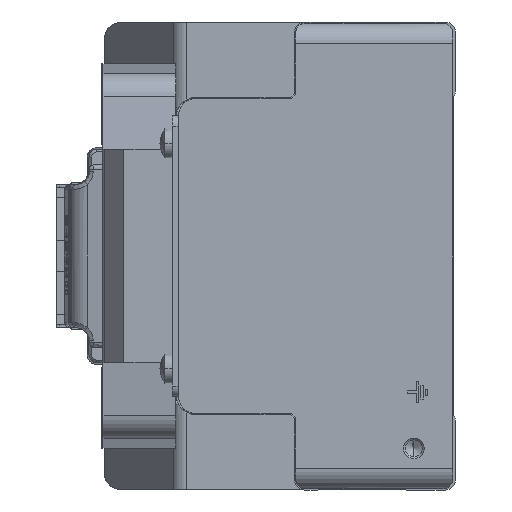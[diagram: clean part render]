
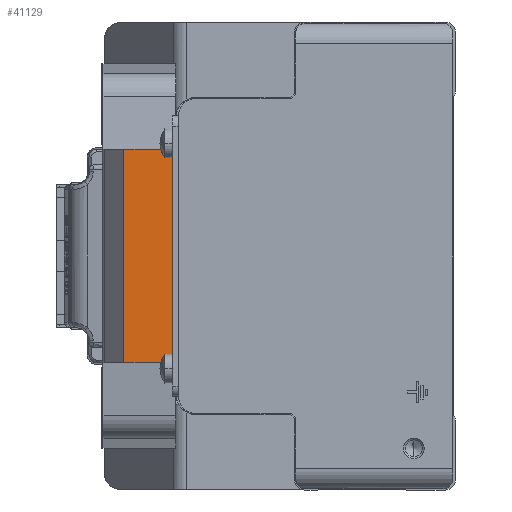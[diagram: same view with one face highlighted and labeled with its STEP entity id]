
A CAD part, left-side view. The second image highlights one B-rep face of the part: STEP entity #41129.
In plain terms, the highlighted planar face has unit normal (-1, 0, 0) as drawn and (0, 0, 1) by its records, which use the part's own axes.
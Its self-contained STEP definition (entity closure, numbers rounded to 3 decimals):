
#2220 = FACE_OUTER_BOUND ( 'NONE', #50737, .T. ) ;
#2514 = DIRECTION ( 'NONE',  ( 0., -1., 0. ) ) ;
#2556 = VECTOR ( 'NONE', #43921, 1000. ) ;
#2567 = LINE ( 'NONE', #20080, #45551 ) ;
#4897 = ORIENTED_EDGE ( 'NONE', *, *, #14774, .T. ) ;
#5898 = EDGE_CURVE ( 'NONE', #52410, #16132, #23627, .T. ) ;
#6089 = EDGE_CURVE ( 'NONE', #36969, #52410, #2567, .T. ) ;
#7496 = DIRECTION ( 'NONE',  ( 0., -1., 0. ) ) ;
#8981 = ORIENTED_EDGE ( 'NONE', *, *, #27541, .T. ) ;
#10208 = ORIENTED_EDGE ( 'NONE', *, *, #6089, .T. ) ;
#11244 = CARTESIAN_POINT ( 'NONE',  ( -20.5, 14., 170. ) ) ;
#12788 = VECTOR ( 'NONE', #19101, 1000. ) ;
#13702 = DIRECTION ( 'NONE',  ( 0.243, 0.97, 0. ) ) ;
#14081 = VERTEX_POINT ( 'NONE', #43978 ) ;
#14774 = EDGE_CURVE ( 'NONE', #34115, #36969, #34118, .T. ) ;
#15029 = CARTESIAN_POINT ( 'NONE',  ( 20.5, 10., 170. ) ) ;
#16132 = VERTEX_POINT ( 'NONE', #56641 ) ;
#17075 = CARTESIAN_POINT ( 'NONE',  ( 20., -2., 170. ) ) ;
#17800 = DIRECTION ( 'NONE',  ( -1., 0., 0. ) ) ;
#18430 = VERTEX_POINT ( 'NONE', #15029 ) ;
#18811 = LINE ( 'NONE', #36713, #12788 ) ;
#19101 = DIRECTION ( 'NONE',  ( 0.243, -0.97, 0. ) ) ;
#20080 = CARTESIAN_POINT ( 'NONE',  ( -20.5, 0., 170. ) ) ;
#20543 = ORIENTED_EDGE ( 'NONE', *, *, #56877, .T. ) ;
#21726 = CARTESIAN_POINT ( 'NONE',  ( -20.5, 0., 170. ) ) ;
#21999 = ORIENTED_EDGE ( 'NONE', *, *, #33696, .T. ) ;
#22302 = CARTESIAN_POINT ( 'NONE',  ( -20.5, 0., 170. ) ) ;
#22365 = ORIENTED_EDGE ( 'NONE', *, *, #42035, .F. ) ;
#23600 = CARTESIAN_POINT ( 'NONE',  ( -20.5, 10., 170. ) ) ;
#23627 = LINE ( 'NONE', #32718, #46423 ) ;
#23759 = ORIENTED_EDGE ( 'NONE', *, *, #5898, .T. ) ;
#24148 = LINE ( 'NONE', #29401, #29898 ) ;
#24730 = DIRECTION ( 'NONE',  ( -1., 0., 0. ) ) ;
#25545 = VERTEX_POINT ( 'NONE', #17075 ) ;
#26842 = VECTOR ( 'NONE', #32189, 1000. ) ;
#27541 = EDGE_CURVE ( 'NONE', #25545, #28707, #39251, .T. ) ;
#28707 = VERTEX_POINT ( 'NONE', #42562 ) ;
#29108 = DIRECTION ( 'NONE',  ( 0., 0., -1. ) ) ;
#29401 = CARTESIAN_POINT ( 'NONE',  ( 20.5, 14., 170. ) ) ;
#29898 = VECTOR ( 'NONE', #2514, 1000. ) ;
#32189 = DIRECTION ( 'NONE',  ( 1., 0., 0. ) ) ;
#32718 = CARTESIAN_POINT ( 'NONE',  ( -20., -2., 170. ) ) ;
#33696 = EDGE_CURVE ( 'NONE', #16132, #14081, #53094, .T. ) ;
#34115 = VERTEX_POINT ( 'NONE', #23600 ) ;
#34118 = LINE ( 'NONE', #34702, #42123 ) ;
#34702 = CARTESIAN_POINT ( 'NONE',  ( -20.5, 14., 170. ) ) ;
#36713 = CARTESIAN_POINT ( 'NONE',  ( 19.5, 0., 170. ) ) ;
#36969 = VERTEX_POINT ( 'NONE', #21726 ) ;
#39251 = LINE ( 'NONE', #57144, #2556 ) ;
#39502 = CARTESIAN_POINT ( 'NONE',  ( 20.5, 10., 170. ) ) ;
#39509 = EDGE_CURVE ( 'NONE', #18430, #34115, #52713, .T. ) ;
#41129 = ADVANCED_FACE ( 'NONE', ( #2220 ), #51394, .F. ) ;
#42035 = EDGE_CURVE ( 'NONE', #18430, #28707, #24148, .T. ) ;
#42123 = VECTOR ( 'NONE', #7496, 1000. ) ;
#42562 = CARTESIAN_POINT ( 'NONE',  ( 20.5, 0., 170. ) ) ;
#43921 = DIRECTION ( 'NONE',  ( 0.243, 0.97, 0. ) ) ;
#43978 = CARTESIAN_POINT ( 'NONE',  ( 19.5, 0., 170. ) ) ;
#45551 = VECTOR ( 'NONE', #51160, 1000. ) ;
#46028 = CARTESIAN_POINT ( 'NONE',  ( -20., -2., 170. ) ) ;
#46423 = VECTOR ( 'NONE', #13702, 1000. ) ;
#48492 = VECTOR ( 'NONE', #17800, 1000. ) ;
#50737 = EDGE_LOOP ( 'NONE', ( #57065, #4897, #10208, #23759, #21999, #20543, #8981, #22365 ) ) ;
#51160 = DIRECTION ( 'NONE',  ( 0.243, -0.97, 0. ) ) ;
#51394 = PLANE ( 'NONE',  #55088 ) ;
#52410 = VERTEX_POINT ( 'NONE', #46028 ) ;
#52713 = LINE ( 'NONE', #39502, #48492 ) ;
#53094 = LINE ( 'NONE', #22302, #26842 ) ;
#55088 = AXIS2_PLACEMENT_3D ( 'NONE', #11244, #29108, #24730 ) ;
#56641 = CARTESIAN_POINT ( 'NONE',  ( -19.5, 0., 170. ) ) ;
#56877 = EDGE_CURVE ( 'NONE', #14081, #25545, #18811, .T. ) ;
#57065 = ORIENTED_EDGE ( 'NONE', *, *, #39509, .T. ) ;
#57144 = CARTESIAN_POINT ( 'NONE',  ( 20., -2., 170. ) ) ;
